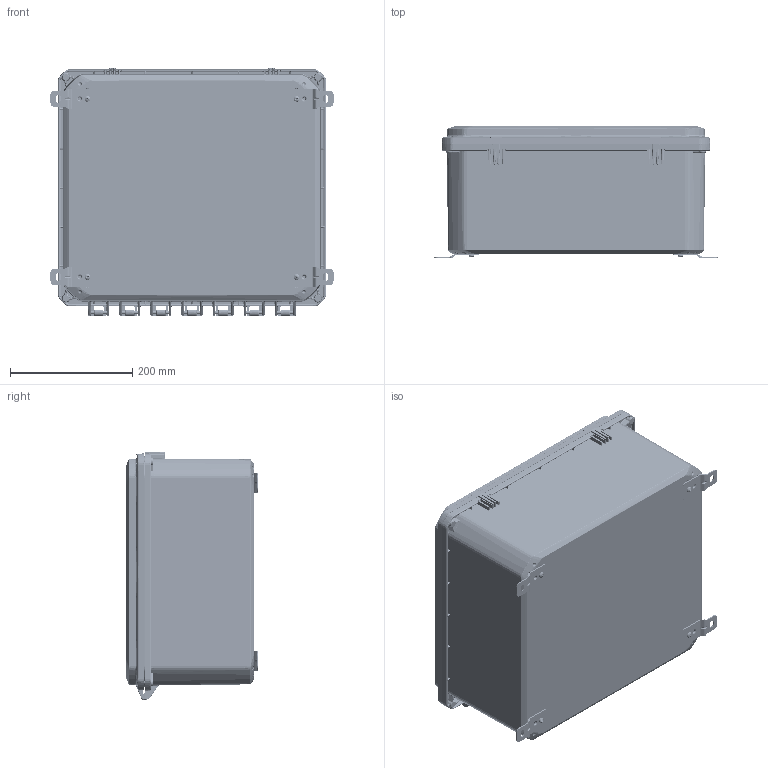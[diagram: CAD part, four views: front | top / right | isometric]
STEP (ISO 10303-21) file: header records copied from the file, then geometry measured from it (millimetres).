
FILE_DESCRIPTION (( 'STEP AP214' ), '1' );
FILE_NAME ('ZH-161407-43.STEP', '2024-06-17T12:10:16', ( '' ), ( '' ), 'SwSTEP 2.0', 'SolidWorks 2024', '' );
FILE_SCHEMA (( 'AUTOMOTIVE_DESIGN' ));
Length unit declared in the file: inch
Products named in the file (11): Z_-16141C_ZH-16141C-02; SCREWS-049_SCREWS-049; INSERTS-4; SCREWS-046_SCREWS-046; ZH-1614G; ZH-161407-43; Z_-16147B_ZH-16147B-01; Z_-16141CG_ZH-16141CG-02; LABEL-104; Z_-16147BI_ZH-16147BI-01; ZH-91F-01_ZH-91F-01
Assembly tree (30 placements, depth 3):
  ZH-161407-43
    Z_-16147BI_ZH-16147BI-01
      Z_-16147B_ZH-16147B-01
      INSERTS-4  x12
      LABEL-104
    Z_-16141CG_ZH-16141CG-02
      Z_-16141C_ZH-16141C-02
      ZH-1614G
    SCREWS-046_SCREWS-046  x4
    SCREWS-049_SCREWS-049  x4
    ZH-91F-01_ZH-91F-01  x4
Bounding box: 462.39 x 216.7 x 406.27 mm (x, y, z)
Volume: 3147078.9 mm3; surface area: 1472254.9 mm2
Topology: 28 solids, 28 shells, 7607 faces, 18599 edges, 11054 vertices
Faces by surface type: bspline 1860, cylinder 1795, plane 1714, cone 1248, torus 788, sphere 202
Entity records: 288643 total; most frequent: CARTESIAN_POINT 166170, ORIENTED_EDGE 27942, DIRECTION 23261, EDGE_CURVE 13971, AXIS2_PLACEMENT_3D 9583, VERTEX_POINT 8187, EDGE_LOOP 6132, ADVANCED_FACE 5944
